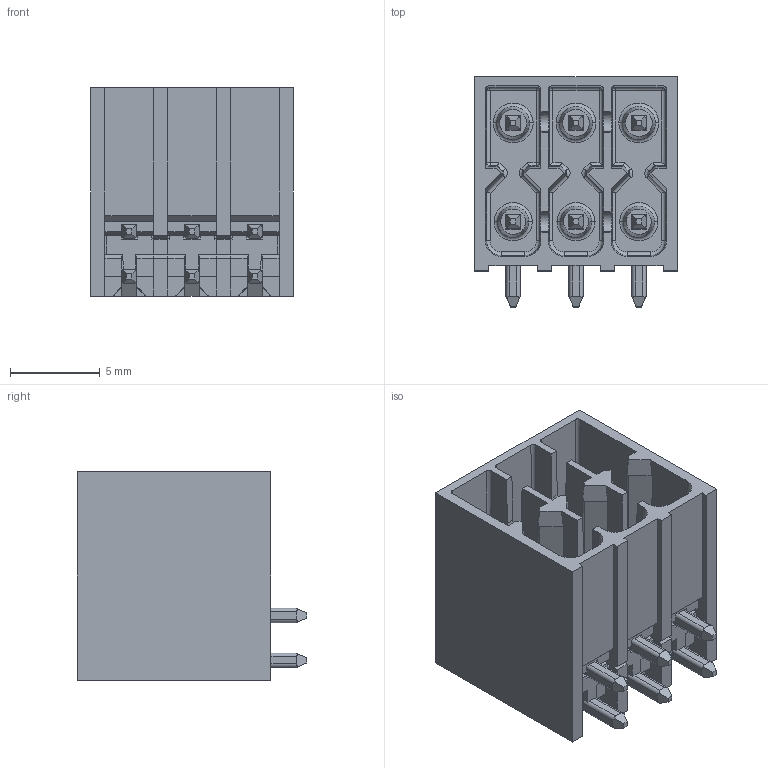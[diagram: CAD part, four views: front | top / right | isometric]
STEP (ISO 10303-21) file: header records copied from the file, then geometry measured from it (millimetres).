
FILE_DESCRIPTION((''),'2;1');
FILE_NAME('6P','2020-09-03T',('renkang.li'),(''),'CREO PARAMETRIC BY PTC INC, 2016260','CREO PARAMETRIC BY PTC INC, 2016260','');
FILE_SCHEMA(('CONFIG_CONTROL_DESIGN'));
Length unit declared in the file: millimetre
Products named in the file (1): 6P
Bounding box: 11.3 x 12.8 x 11.6 mm (x, y, z)
Volume: 647.3 mm3; surface area: 1992.7 mm2
Topology: 1 solids, 39 shells, 1161 faces, 3201 edges, 2091 vertices
Faces by surface type: plane 761, cone 174, cylinder 168, torus 50, bspline 6, sphere 2
Entity records: 41123 total; most frequent: CARTESIAN_POINT 12959, ORIENTED_EDGE 6386, DIRECTION 4972, EDGE_CURVE 3193, VERTEX_POINT 2091, VECTOR 2054, LINE 2054, AXIS2_PLACEMENT_3D 1459
